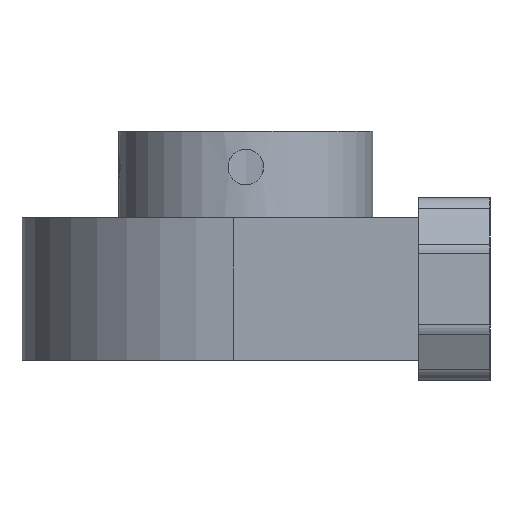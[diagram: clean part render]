
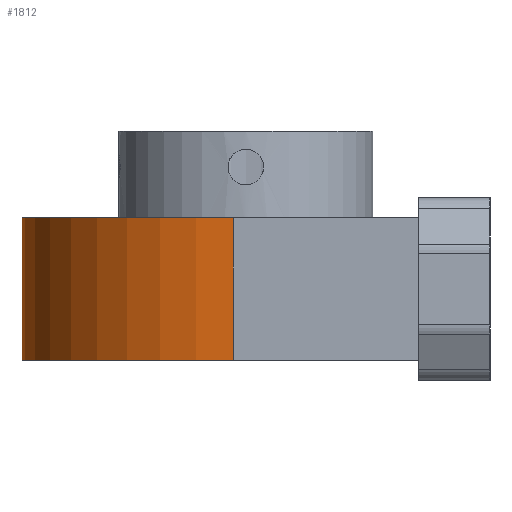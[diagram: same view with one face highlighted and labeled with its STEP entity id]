
A CAD part, left-side view. The second image highlights one B-rep face of the part: STEP entity #1812.
In plain terms, the highlighted cylindrical face has radius 22 mm (diameter 44 mm), a partial arc.
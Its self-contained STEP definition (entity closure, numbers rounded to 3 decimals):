
#1309=CARTESIAN_POINT('',(-21.965,1.246,-7.));
#1310=VERTEX_POINT('',#1309);
#1317=CARTESIAN_POINT('',(21.965,1.246,-7.));
#1318=VERTEX_POINT('',#1317);
#1319=CARTESIAN_POINT('',(0.0,0.0,-7.));
#1320=DIRECTION('',(0.0,0.0,1.0));
#1321=DIRECTION('',(0.998,0.057,0.0));
#1322=AXIS2_PLACEMENT_3D('',#1319,#1320,#1321);
#1323=CIRCLE('',#1322,22.);
#1324=EDGE_CURVE('',#1318,#1310,#1323,.T.);
#1656=CARTESIAN_POINT('',(21.965,1.246,7.));
#1657=VERTEX_POINT('',#1656);
#1664=CARTESIAN_POINT('',(-21.965,1.246,7.));
#1665=VERTEX_POINT('',#1664);
#1666=CARTESIAN_POINT('',(0.0,0.0,7.));
#1667=DIRECTION('',(0.0,0.0,-1.0));
#1668=DIRECTION('',(0.998,0.057,0.0));
#1669=AXIS2_PLACEMENT_3D('',#1666,#1667,#1668);
#1670=CIRCLE('',#1669,22.);
#1671=EDGE_CURVE('',#1665,#1657,#1670,.T.);
#1774=CARTESIAN_POINT('',(21.965,1.246,-7.));
#1775=DIRECTION('',(0.0,0.0,1.0));
#1776=VECTOR('',#1775,14.);
#1777=LINE('',#1774,#1776);
#1778=EDGE_CURVE('',#1318,#1657,#1777,.T.);
#1791=CARTESIAN_POINT('',(-21.965,1.246,-7.));
#1792=DIRECTION('',(0.0,0.0,1.0));
#1793=VECTOR('',#1792,14.);
#1794=LINE('',#1791,#1793);
#1795=EDGE_CURVE('',#1310,#1665,#1794,.T.);
#1801=CARTESIAN_POINT('',(0.0,0.0,0.0));
#1802=DIRECTION('',(0.0,0.0,1.0));
#1803=DIRECTION('',(0.998,0.057,0.0));
#1804=AXIS2_PLACEMENT_3D('',#1801,#1802,#1803);
#1805=CYLINDRICAL_SURFACE('',#1804,22.);
#1806=ORIENTED_EDGE('',*,*,#1671,.T.);
#1807=ORIENTED_EDGE('',*,*,#1778,.F.);
#1808=ORIENTED_EDGE('',*,*,#1324,.T.);
#1809=ORIENTED_EDGE('',*,*,#1795,.T.);
#1810=EDGE_LOOP('',(#1806,#1807,#1808,#1809));
#1811=FACE_OUTER_BOUND('',#1810,.T.);
#1812=ADVANCED_FACE('',(#1811),#1805,.T.);
